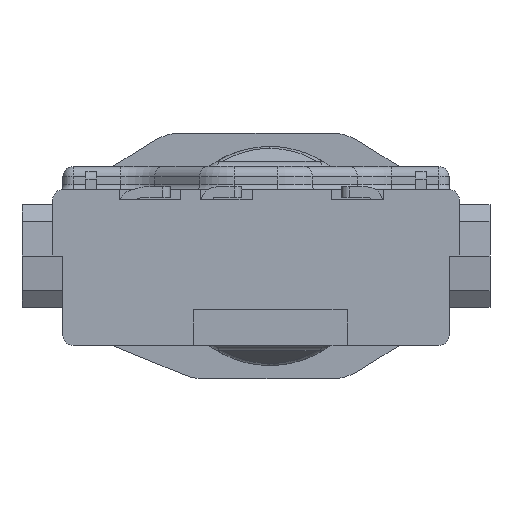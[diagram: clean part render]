
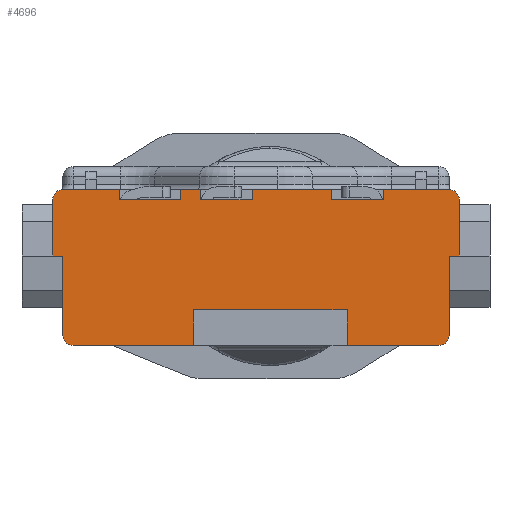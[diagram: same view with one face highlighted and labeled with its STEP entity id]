
A CAD part, front view. The second image highlights one B-rep face of the part: STEP entity #4696.
In plain terms, the highlighted planar face has unit normal (0, -1, 0).
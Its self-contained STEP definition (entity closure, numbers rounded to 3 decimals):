
#1=DIRECTION('',(1.,0.,0.));
#2=VECTOR('',#1,1.2);
#3=CARTESIAN_POINT('',(-2.675,0.,1.1));
#4=LINE('',#3,#2);
#5=DIRECTION('',(0.,0.,-1.));
#6=VECTOR('',#5,0.2);
#7=CARTESIAN_POINT('',(-1.475,0.,1.3));
#8=LINE('',#7,#6);
#9=DIRECTION('',(0.,0.,-1.));
#10=VECTOR('',#9,0.2);
#11=CARTESIAN_POINT('',(-1.085,0.,1.3));
#12=LINE('',#11,#10);
#13=DIRECTION('',(1.,0.,0.));
#14=VECTOR('',#13,1.01);
#15=CARTESIAN_POINT('',(-1.085,0.,1.1));
#16=LINE('',#15,#14);
#17=DIRECTION('',(0.,0.,-1.));
#18=VECTOR('',#17,0.2);
#19=CARTESIAN_POINT('',(-0.075,0.,1.3));
#20=LINE('',#19,#18);
#21=DIRECTION('',(0.,0.,-1.));
#22=VECTOR('',#21,0.2);
#23=CARTESIAN_POINT('',(1.475,0.,1.3));
#24=LINE('',#23,#22);
#25=DIRECTION('',(1.,0.,0.));
#26=VECTOR('',#25,1.01);
#27=CARTESIAN_POINT('',(1.475,0.,1.1));
#28=LINE('',#27,#26);
#29=DIRECTION('',(0.,0.,-1.));
#30=VECTOR('',#29,0.2);
#31=CARTESIAN_POINT('',(2.485,0.,1.3));
#32=LINE('',#31,#30);
#33=CARTESIAN_POINT('',(3.775,0.,1.1));
#34=DIRECTION('',(0.,-1.,0.));
#35=DIRECTION('',(1.,0.,0.));
#36=AXIS2_PLACEMENT_3D('',#33,#34,#35);
#38=DIRECTION('',(0.,0.,-1.));
#39=VECTOR('',#38,1.55);
#40=CARTESIAN_POINT('',(3.775,0.,0.));
#41=LINE('',#40,#39);
#42=CARTESIAN_POINT('',(3.575,0.,-1.55));
#43=DIRECTION('',(0.,-1.,0.));
#44=DIRECTION('',(0.,0.,-1.));
#45=AXIS2_PLACEMENT_3D('',#42,#43,#44);
#47=DIRECTION('',(-1.,0.,0.));
#48=VECTOR('',#47,1.795);
#49=CARTESIAN_POINT('',(3.575,0.,-1.75));
#50=LINE('',#49,#48);
#51=DIRECTION('',(0.,0.,1.));
#52=VECTOR('',#51,0.7);
#53=CARTESIAN_POINT('',(1.78,0.,-1.75));
#54=LINE('',#53,#52);
#55=DIRECTION('',(1.,0.,0.));
#56=VECTOR('',#55,3.);
#57=CARTESIAN_POINT('',(-1.22,0.,-1.05));
#58=LINE('',#57,#56);
#59=DIRECTION('',(0.,0.,1.));
#60=VECTOR('',#59,0.7);
#61=CARTESIAN_POINT('',(-1.22,0.,-1.75));
#62=LINE('',#61,#60);
#63=DIRECTION('',(-1.,0.,0.));
#64=VECTOR('',#63,2.355);
#65=CARTESIAN_POINT('',(-1.22,0.,-1.75));
#66=LINE('',#65,#64);
#67=CARTESIAN_POINT('',(-3.575,0.,-1.55));
#68=DIRECTION('',(0.,-1.,0.));
#69=DIRECTION('',(-1.,0.,0.));
#70=AXIS2_PLACEMENT_3D('',#67,#68,#69);
#72=DIRECTION('',(0.,0.,1.));
#73=VECTOR('',#72,1.55);
#74=CARTESIAN_POINT('',(-3.775,0.,-1.55));
#75=LINE('',#74,#73);
#76=CARTESIAN_POINT('',(-3.775,0.,1.1));
#77=DIRECTION('',(0.,-1.,0.));
#78=DIRECTION('',(0.,0.,1.));
#79=AXIS2_PLACEMENT_3D('',#76,#77,#78);
#81=DIRECTION('',(0.,0.,-1.));
#82=VECTOR('',#81,0.2);
#83=CARTESIAN_POINT('',(-2.675,0.,1.3));
#84=LINE('',#83,#82);
#185=DIRECTION('',(-1.,0.,0.));
#186=VECTOR('',#185,1.1);
#187=CARTESIAN_POINT('',(-2.675,0.,1.3));
#188=LINE('',#187,#186);
#247=DIRECTION('',(-1.,0.,0.));
#248=VECTOR('',#247,1.29);
#249=CARTESIAN_POINT('',(3.775,0.,1.3));
#250=LINE('',#249,#248);
#263=DIRECTION('',(-1.,0.,0.));
#264=VECTOR('',#263,1.55);
#265=CARTESIAN_POINT('',(1.475,0.,1.3));
#266=LINE('',#265,#264);
#279=DIRECTION('',(-1.,0.,0.));
#280=VECTOR('',#279,0.39);
#281=CARTESIAN_POINT('',(-1.085,0.,1.3));
#282=LINE('',#281,#280);
#328=DIRECTION('',(0.,0.,-1.));
#329=VECTOR('',#328,1.1);
#330=CARTESIAN_POINT('',(-3.975,0.,1.1));
#331=LINE('',#330,#329);
#340=DIRECTION('',(-1.,0.,0.));
#341=VECTOR('',#340,0.2);
#342=CARTESIAN_POINT('',(-3.775,0.,0.));
#343=LINE('',#342,#341);
#1168=DIRECTION('',(0.,0.,-1.));
#1169=VECTOR('',#1168,1.1);
#1170=CARTESIAN_POINT('',(3.975,0.,1.1));
#1171=LINE('',#1170,#1169);
#1272=DIRECTION('',(1.,0.,0.));
#1273=VECTOR('',#1272,0.2);
#1274=CARTESIAN_POINT('',(3.775,0.,0.));
#1275=LINE('',#1274,#1273);
#3615=CARTESIAN_POINT('',(-3.775,0.,-1.55));
#3616=CARTESIAN_POINT('',(-3.575,0.,-1.75));
#3617=VERTEX_POINT('',#3615);
#3618=VERTEX_POINT('',#3616);
#3623=CARTESIAN_POINT('',(3.575,0.,-1.75));
#3624=CARTESIAN_POINT('',(3.775,0.,-1.55));
#3625=VERTEX_POINT('',#3623);
#3626=VERTEX_POINT('',#3624);
#3639=CARTESIAN_POINT('',(-1.22,0.,-1.75));
#3641=VERTEX_POINT('',#3639);
#3645=CARTESIAN_POINT('',(1.78,0.,-1.75));
#3646=VERTEX_POINT('',#3645);
#3647=CARTESIAN_POINT('',(-1.22,0.,-1.05));
#3648=CARTESIAN_POINT('',(1.78,0.,-1.05));
#3649=VERTEX_POINT('',#3647);
#3650=VERTEX_POINT('',#3648);
#4157=CARTESIAN_POINT('',(3.775,0.,0.));
#4159=VERTEX_POINT('',#4157);
#4171=CARTESIAN_POINT('',(3.975,0.,0.));
#4172=VERTEX_POINT('',#4171);
#4173=CARTESIAN_POINT('',(-3.975,0.,0.));
#4175=VERTEX_POINT('',#4173);
#4177=CARTESIAN_POINT('',(-3.775,0.,0.));
#4178=VERTEX_POINT('',#4177);
#4189=CARTESIAN_POINT('',(3.975,0.,1.1));
#4190=CARTESIAN_POINT('',(3.775,0.,1.3));
#4191=VERTEX_POINT('',#4189);
#4192=VERTEX_POINT('',#4190);
#4205=CARTESIAN_POINT('',(-3.775,0.,1.3));
#4206=VERTEX_POINT('',#4205);
#4207=CARTESIAN_POINT('',(-3.975,0.,1.1));
#4208=VERTEX_POINT('',#4207);
#4221=CARTESIAN_POINT('',(-2.675,0.,1.1));
#4222=CARTESIAN_POINT('',(-1.475,0.,1.1));
#4223=VERTEX_POINT('',#4221);
#4224=VERTEX_POINT('',#4222);
#4225=CARTESIAN_POINT('',(-1.085,0.,1.1));
#4226=CARTESIAN_POINT('',(-0.075,0.,1.1));
#4227=VERTEX_POINT('',#4225);
#4228=VERTEX_POINT('',#4226);
#4229=CARTESIAN_POINT('',(1.475,0.,1.1));
#4230=CARTESIAN_POINT('',(2.485,0.,1.1));
#4231=VERTEX_POINT('',#4229);
#4232=VERTEX_POINT('',#4230);
#4233=CARTESIAN_POINT('',(-1.475,0.,1.3));
#4234=VERTEX_POINT('',#4233);
#4235=CARTESIAN_POINT('',(-2.675,0.,1.3));
#4236=VERTEX_POINT('',#4235);
#4237=CARTESIAN_POINT('',(-1.085,0.,1.3));
#4238=VERTEX_POINT('',#4237);
#4239=CARTESIAN_POINT('',(-0.075,0.,1.3));
#4240=VERTEX_POINT('',#4239);
#4241=CARTESIAN_POINT('',(2.485,0.,1.3));
#4242=VERTEX_POINT('',#4241);
#4243=CARTESIAN_POINT('',(1.475,0.,1.3));
#4244=VERTEX_POINT('',#4243);
#4633=CARTESIAN_POINT('',(0.,0.,0.));
#4634=DIRECTION('',(0.,1.,0.));
#4635=DIRECTION('',(1.,0.,0.));
#4636=AXIS2_PLACEMENT_3D('',#4633,#4634,#4635);
#4637=PLANE('',#4636);
#4639=ORIENTED_EDGE('',*,*,#4638,.T.);
#4641=ORIENTED_EDGE('',*,*,#4640,.F.);
#4643=ORIENTED_EDGE('',*,*,#4642,.F.);
#4645=ORIENTED_EDGE('',*,*,#4644,.T.);
#4647=ORIENTED_EDGE('',*,*,#4646,.T.);
#4649=ORIENTED_EDGE('',*,*,#4648,.F.);
#4651=ORIENTED_EDGE('',*,*,#4650,.F.);
#4653=ORIENTED_EDGE('',*,*,#4652,.T.);
#4655=ORIENTED_EDGE('',*,*,#4654,.T.);
#4657=ORIENTED_EDGE('',*,*,#4656,.F.);
#4659=ORIENTED_EDGE('',*,*,#4658,.F.);
#4661=ORIENTED_EDGE('',*,*,#4660,.F.);
#4663=ORIENTED_EDGE('',*,*,#4662,.T.);
#4665=ORIENTED_EDGE('',*,*,#4664,.F.);
#4667=ORIENTED_EDGE('',*,*,#4666,.T.);
#4669=ORIENTED_EDGE('',*,*,#4668,.F.);
#4671=ORIENTED_EDGE('',*,*,#4670,.T.);
#4673=ORIENTED_EDGE('',*,*,#4672,.T.);
#4675=ORIENTED_EDGE('',*,*,#4674,.F.);
#4677=ORIENTED_EDGE('',*,*,#4676,.F.);
#4679=ORIENTED_EDGE('',*,*,#4678,.T.);
#4681=ORIENTED_EDGE('',*,*,#4680,.F.);
#4683=ORIENTED_EDGE('',*,*,#4682,.T.);
#4685=ORIENTED_EDGE('',*,*,#4684,.T.);
#4687=ORIENTED_EDGE('',*,*,#4686,.F.);
#4689=ORIENTED_EDGE('',*,*,#4688,.F.);
#4691=ORIENTED_EDGE('',*,*,#4690,.F.);
#4693=ORIENTED_EDGE('',*,*,#4692,.T.);
#4694=EDGE_LOOP('',(#4639,#4641,#4643,#4645,#4647,#4649,#4651,#4653,#4655,#4657,
#4659,#4661,#4663,#4665,#4667,#4669,#4671,#4673,#4675,#4677,#4679,#4681,#4683,
#4685,#4687,#4689,#4691,#4693));
#4695=FACE_OUTER_BOUND('',#4694,.F.);
#37=CIRCLE('',#36,0.2);
#46=CIRCLE('',#45,0.2);
#71=CIRCLE('',#70,0.2);
#80=CIRCLE('',#79,0.2);
#4638=EDGE_CURVE('',#4223,#4224,#4,.T.);
#4640=EDGE_CURVE('',#4234,#4224,#8,.T.);
#4642=EDGE_CURVE('',#4238,#4234,#282,.T.);
#4644=EDGE_CURVE('',#4238,#4227,#12,.T.);
#4646=EDGE_CURVE('',#4227,#4228,#16,.T.);
#4648=EDGE_CURVE('',#4240,#4228,#20,.T.);
#4650=EDGE_CURVE('',#4244,#4240,#266,.T.);
#4652=EDGE_CURVE('',#4244,#4231,#24,.T.);
#4654=EDGE_CURVE('',#4231,#4232,#28,.T.);
#4656=EDGE_CURVE('',#4242,#4232,#32,.T.);
#4658=EDGE_CURVE('',#4192,#4242,#250,.T.);
#4660=EDGE_CURVE('',#4191,#4192,#37,.T.);
#4662=EDGE_CURVE('',#4191,#4172,#1171,.T.);
#4664=EDGE_CURVE('',#4159,#4172,#1275,.T.);
#4666=EDGE_CURVE('',#4159,#3626,#41,.T.);
#4668=EDGE_CURVE('',#3625,#3626,#46,.T.);
#4670=EDGE_CURVE('',#3625,#3646,#50,.T.);
#4672=EDGE_CURVE('',#3646,#3650,#54,.T.);
#4674=EDGE_CURVE('',#3649,#3650,#58,.T.);
#4676=EDGE_CURVE('',#3641,#3649,#62,.T.);
#4678=EDGE_CURVE('',#3641,#3618,#66,.T.);
#4680=EDGE_CURVE('',#3617,#3618,#71,.T.);
#4682=EDGE_CURVE('',#3617,#4178,#75,.T.);
#4684=EDGE_CURVE('',#4178,#4175,#343,.T.);
#4686=EDGE_CURVE('',#4208,#4175,#331,.T.);
#4688=EDGE_CURVE('',#4206,#4208,#80,.T.);
#4690=EDGE_CURVE('',#4236,#4206,#188,.T.);
#4692=EDGE_CURVE('',#4236,#4223,#84,.T.);
#4696=ADVANCED_FACE('',(#4695),#4637,.F.);
